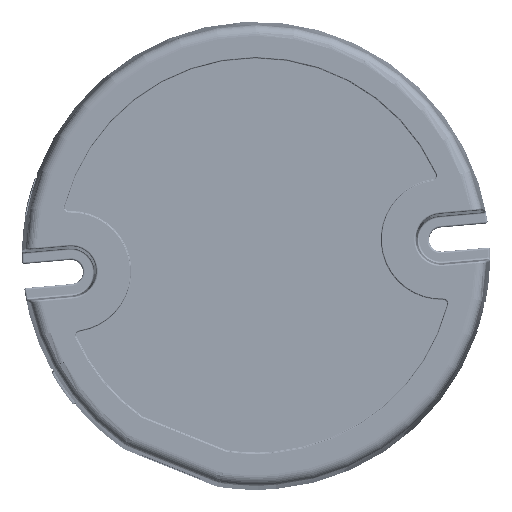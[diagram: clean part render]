
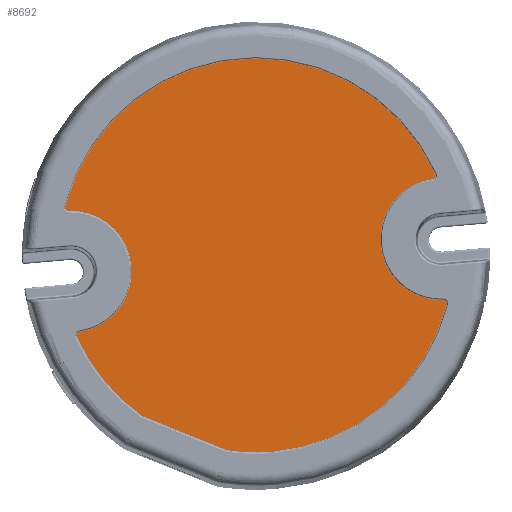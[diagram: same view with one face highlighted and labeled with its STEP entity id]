
A CAD part, top view. The second image highlights one B-rep face of the part: STEP entity #8692.
In plain terms, the highlighted planar face has unit normal (0, 0, 1).
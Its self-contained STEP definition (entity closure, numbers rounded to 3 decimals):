
#174 = VERTEX_POINT('',#175);
#175 = CARTESIAN_POINT('',(26.634,-5.973,
    23.326));
#190 = VERTEX_POINT('',#191);
#191 = CARTESIAN_POINT('',(2.36,-26.541,
    23.326));
#198 = EDGE_CURVE('',#190,#174,#199,.T.);
#199 = CIRCLE('',#200,27.546);
#200 = AXIS2_PLACEMENT_3D('',#201,#202,#203);
#201 = CARTESIAN_POINT('',(-0.041,0.9,
    23.326));
#202 = DIRECTION('',(0.,0.,1.));
#203 = DIRECTION('',(0.087,-0.996,
    0.));
#8692 = ADVANCED_FACE('',(#8693),#8801,.T.);
#8693 = FACE_BOUND('',#8694,.T.);
#8694 = EDGE_LOOP('',(#8695,#8706,#8715,#8724,#8733,#8741,#8750,#8757,
    #8758,#8767,#8776,#8785,#8794));
#8695 = ORIENTED_EDGE('',*,*,#8696,.T.);
#8696 = EDGE_CURVE('',#8697,#8699,#8701,.T.);
#8697 = VERTEX_POINT('',#8698);
#8698 = CARTESIAN_POINT('',(-26.208,7.139,
    23.326));
#8699 = VERTEX_POINT('',#8700);
#8700 = CARTESIAN_POINT('',(-24.727,-9.788,
    23.326));
#8701 = CIRCLE('',#8702,8.509);
#8702 = AXIS2_PLACEMENT_3D('',#8703,#8704,#8705);
#8703 = CARTESIAN_POINT('',(-25.942,-1.366,
    23.326));
#8704 = DIRECTION('',(0.,0.,-1.));
#8705 = DIRECTION('',(0.087,-0.996,
    0.));
#8706 = ORIENTED_EDGE('',*,*,#8707,.T.);
#8707 = EDGE_CURVE('',#8699,#8708,#8710,.T.);
#8708 = VERTEX_POINT('',#8709);
#8709 = CARTESIAN_POINT('',(-25.117,-10.501,
    23.326));
#8710 = CIRCLE('',#8711,0.508);
#8711 = AXIS2_PLACEMENT_3D('',#8712,#8713,#8714);
#8712 = CARTESIAN_POINT('',(-24.655,-10.29,
    23.326));
#8713 = DIRECTION('',(0.,0.,1.));
#8714 = DIRECTION('',(0.087,-0.996,
    0.));
#8715 = ORIENTED_EDGE('',*,*,#8716,.T.);
#8716 = EDGE_CURVE('',#8708,#8717,#8719,.T.);
#8717 = VERTEX_POINT('',#8718);
#8718 = CARTESIAN_POINT('',(-16.012,-21.544,
    23.326));
#8719 = CIRCLE('',#8720,27.546);
#8720 = AXIS2_PLACEMENT_3D('',#8721,#8722,#8723);
#8721 = CARTESIAN_POINT('',(-0.041,0.9,
    23.326));
#8722 = DIRECTION('',(0.,0.,1.));
#8723 = DIRECTION('',(0.087,-0.996,
    0.));
#8724 = ORIENTED_EDGE('',*,*,#8725,.T.);
#8725 = EDGE_CURVE('',#8717,#8726,#8728,.T.);
#8726 = VERTEX_POINT('',#8727);
#8727 = CARTESIAN_POINT('',(-15.907,-21.601,
    23.326));
#8728 = CIRCLE('',#8729,0.508);
#8729 = AXIS2_PLACEMENT_3D('',#8730,#8731,#8732);
#8730 = CARTESIAN_POINT('',(-15.717,-21.13,
    23.326));
#8731 = DIRECTION('',(0.,0.,1.));
#8732 = DIRECTION('',(0.087,-0.996,
    0.));
#8733 = ORIENTED_EDGE('',*,*,#8734,.T.);
#8734 = EDGE_CURVE('',#8726,#8735,#8737,.T.);
#8735 = VERTEX_POINT('',#8736);
#8736 = CARTESIAN_POINT('',(-4.212,-26.314,
    23.326));
#8737 = LINE('',#8738,#8739);
#8738 = CARTESIAN_POINT('',(-31.556,-15.295,
    23.326));
#8739 = VECTOR('',#8740,1.);
#8740 = DIRECTION('',(0.928,-0.374,
    0.));
#8741 = ORIENTED_EDGE('',*,*,#8742,.T.);
#8742 = EDGE_CURVE('',#8735,#8743,#8745,.T.);
#8743 = VERTEX_POINT('',#8744);
#8744 = CARTESIAN_POINT('',(-4.097,-26.346,
    23.326));
#8745 = CIRCLE('',#8746,0.508);
#8746 = AXIS2_PLACEMENT_3D('',#8747,#8748,#8749);
#8747 = CARTESIAN_POINT('',(-4.022,-25.843,
    23.326));
#8748 = DIRECTION('',(0.,0.,1.));
#8749 = DIRECTION('',(0.087,-0.996,
    0.));
#8750 = ORIENTED_EDGE('',*,*,#8751,.T.);
#8751 = EDGE_CURVE('',#8743,#190,#8752,.T.);
#8752 = CIRCLE('',#8753,27.546);
#8753 = AXIS2_PLACEMENT_3D('',#8754,#8755,#8756);
#8754 = CARTESIAN_POINT('',(-0.041,0.9,
    23.326));
#8755 = DIRECTION('',(0.,0.,1.));
#8756 = DIRECTION('',(0.087,-0.996,
    0.));
#8757 = ORIENTED_EDGE('',*,*,#198,.T.);
#8758 = ORIENTED_EDGE('',*,*,#8759,.T.);
#8759 = EDGE_CURVE('',#174,#8760,#8762,.T.);
#8760 = VERTEX_POINT('',#8761);
#8761 = CARTESIAN_POINT('',(26.126,-5.338,
    23.326));
#8762 = CIRCLE('',#8763,0.508);
#8763 = AXIS2_PLACEMENT_3D('',#8764,#8765,#8766);
#8764 = CARTESIAN_POINT('',(26.142,-5.846,
    23.326));
#8765 = DIRECTION('',(0.,0.,1.));
#8766 = DIRECTION('',(0.087,-0.996,
    0.));
#8767 = ORIENTED_EDGE('',*,*,#8768,.T.);
#8768 = EDGE_CURVE('',#8760,#8769,#8771,.T.);
#8769 = VERTEX_POINT('',#8770);
#8770 = CARTESIAN_POINT('',(24.645,11.588,
    23.326));
#8771 = CIRCLE('',#8772,8.509);
#8772 = AXIS2_PLACEMENT_3D('',#8773,#8774,#8775);
#8773 = CARTESIAN_POINT('',(25.86,3.166,
    23.326));
#8774 = DIRECTION('',(0.,0.,-1.));
#8775 = DIRECTION('',(0.087,-0.996,
    0.));
#8776 = ORIENTED_EDGE('',*,*,#8777,.T.);
#8777 = EDGE_CURVE('',#8769,#8778,#8780,.T.);
#8778 = VERTEX_POINT('',#8779);
#8779 = CARTESIAN_POINT('',(25.035,12.301,
    23.326));
#8780 = CIRCLE('',#8781,0.508);
#8781 = AXIS2_PLACEMENT_3D('',#8782,#8783,#8784);
#8782 = CARTESIAN_POINT('',(24.573,12.091,
    23.326));
#8783 = DIRECTION('',(0.,0.,1.));
#8784 = DIRECTION('',(0.087,-0.996,
    0.));
#8785 = ORIENTED_EDGE('',*,*,#8786,.T.);
#8786 = EDGE_CURVE('',#8778,#8787,#8789,.T.);
#8787 = VERTEX_POINT('',#8788);
#8788 = CARTESIAN_POINT('',(-26.716,7.774,
    23.326));
#8789 = CIRCLE('',#8790,27.546);
#8790 = AXIS2_PLACEMENT_3D('',#8791,#8792,#8793);
#8791 = CARTESIAN_POINT('',(-0.041,0.9,
    23.326));
#8792 = DIRECTION('',(0.,0.,1.));
#8793 = DIRECTION('',(0.087,-0.996,
    0.));
#8794 = ORIENTED_EDGE('',*,*,#8795,.T.);
#8795 = EDGE_CURVE('',#8787,#8697,#8796,.T.);
#8796 = CIRCLE('',#8797,0.508);
#8797 = AXIS2_PLACEMENT_3D('',#8798,#8799,#8800);
#8798 = CARTESIAN_POINT('',(-26.224,7.647,
    23.326));
#8799 = DIRECTION('',(0.,0.,1.));
#8800 = DIRECTION('',(0.087,-0.996,
    0.));
#8801 = PLANE('',#8802);
#8802 = AXIS2_PLACEMENT_3D('',#8803,#8804,#8805);
#8803 = CARTESIAN_POINT('',(-25.942,-1.366,
    23.326));
#8804 = DIRECTION('',(0.,0.,1.));
#8805 = DIRECTION('',(0.087,-0.996,
    0.));
